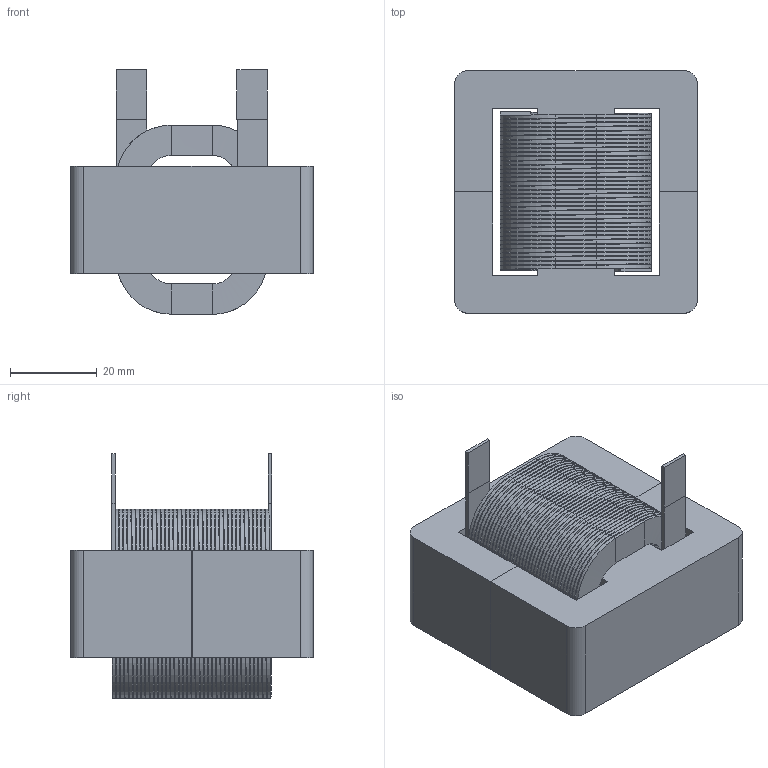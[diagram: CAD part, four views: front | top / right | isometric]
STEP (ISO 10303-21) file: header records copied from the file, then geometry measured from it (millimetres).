
FILE_DESCRIPTION (( 'STEP AP214' ), '1' );
FILE_NAME ('LCEK28B6-351M-40AH REV. A.STEP', '2020-03-02T22:21:17', ( '' ), ( '' ), 'SwSTEP 2.0', 'SolidWorks 2015', '' );
FILE_SCHEMA (( 'AUTOMOTIVE_DESIGN' ));
Length unit declared in the file: inch
Products named in the file (7): LCEK28B6-351M-40AH REV. A; LCEK28B6-351M-40AH coil; LCEK28B6-351M-40AH core
Assembly tree (4 placements, depth 2):
  LCEK28B6-351M-40AH REV. A
    LCEK28B6-351M-40AH coil
  LCEK28B6-351M-40AH core
  LCEK28B6-351M-40AH REV. A
    LCEK28B6-351M-40AH core  x2
    LCEK28B6-351M-40AH coil
  LCEK28B6-351M-40AH core
Bounding box: 55.88 x 55.88 x 56.33 mm (x, y, z)
Volume: 80272.8 mm3; surface area: 83331.1 mm2
Topology: 4 solids, 4 shells, 1257 faces, 2543 edges, 1294 vertices
Faces by surface type: bspline 1208, plane 45, cylinder 4
Entity records: 104149 total; most frequent: CARTESIAN_POINT 84853, ORIENTED_EDGE 5000, EDGE_CURVE 2500, DIRECTION 1381, LINE 1287, VECTOR 1287, VERTEX_POINT 1264, EDGE_LOOP 1242
